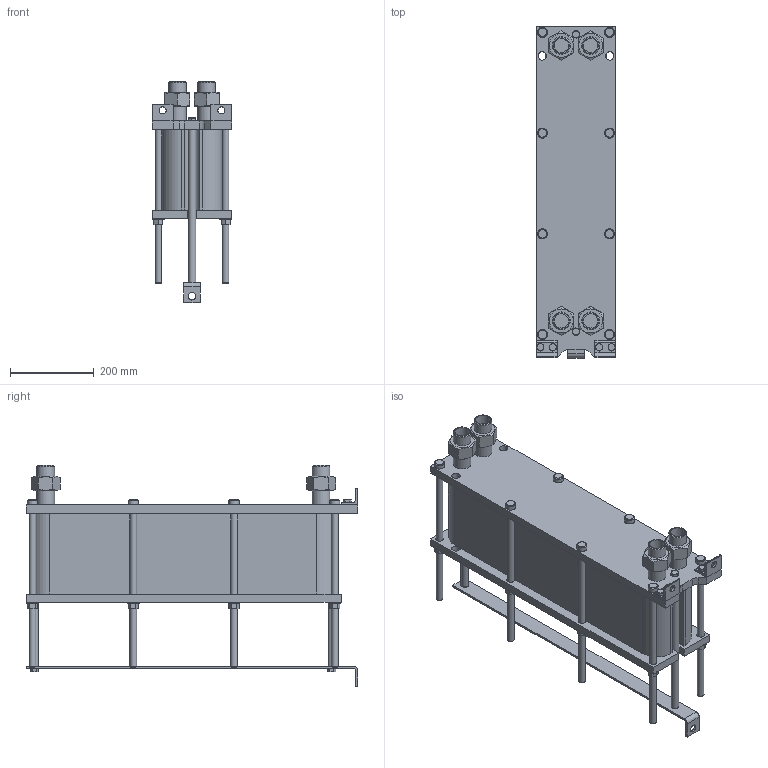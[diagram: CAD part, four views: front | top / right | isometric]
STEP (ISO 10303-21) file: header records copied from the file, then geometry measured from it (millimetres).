
FILE_DESCRIPTION(/* description */ (''),/* implementation_level */ '2;1');
FILE_NAME(/* name */ 'C:\Users\zhuro\Desktop\ENCO\TO\ЭН-008\ЭН-0,5-008-62-1.stp',/* time_stamp */ '2022-06-06T10:50:38+03:00',/* author */ ('zhuro'),/* organization */ (''),/* preprocessor_version */ 'ST-DEVELOPER v18.1',/* originating_system */ 'Autodesk Inventor 2022',/* authorisation */ '');
FILE_SCHEMA (('AUTOMOTIVE_DESIGN { 1 0 10303 214 3 1 1 }'));
Length unit declared in the file: millimetre
Products named in the file (1): ЭН-0,5-008-62-1
Bounding box: 190 x 790 x 526.6 mm (x, y, z)
Volume: 26402917.9 mm3; surface area: 1700089.2 mm2
Topology: 40 solids, 40 shells, 428 faces, 924 edges, 606 vertices
Faces by surface type: plane 273, cylinder 109, cone 40, torus 6
Full cylindrical faces by diameter (mm): 12 x6, 14 x2, 16 x20, 17 x8, 18 x19, 20 x5, 24 x8, 28 x8, 34.3 x8, 42.3 x8
Entity records: 15843 total; most frequent: CARTESIAN_POINT 5991, DIRECTION 1984, ORIENTED_EDGE 1848, EDGE_CURVE 924, AXIS2_PLACEMENT_3D 715, VERTEX_POINT 606, LINE 554, VECTOR 554
